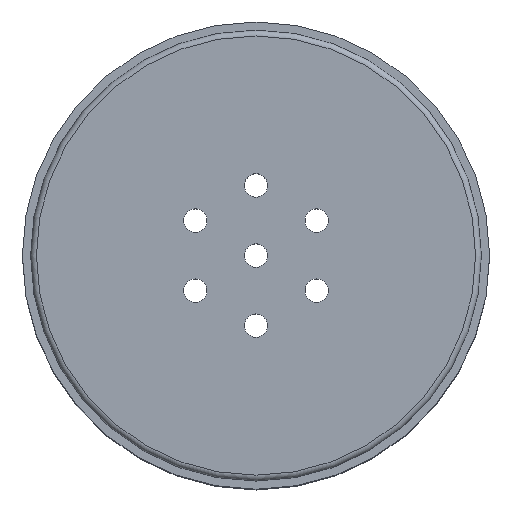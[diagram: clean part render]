
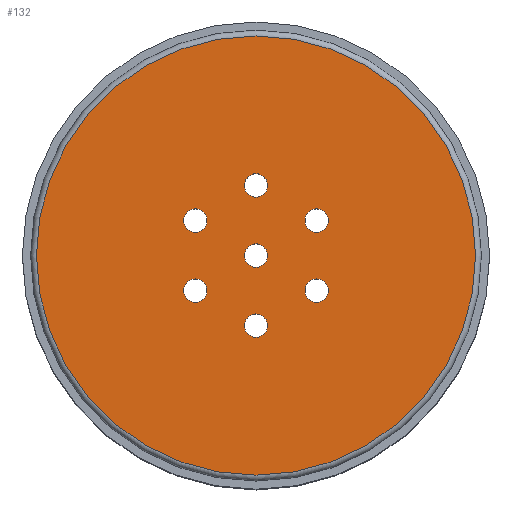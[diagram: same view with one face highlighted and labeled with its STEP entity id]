
A CAD part, top view. The second image highlights one B-rep face of the part: STEP entity #132.
In plain terms, the highlighted planar face has unit normal (0, 0, 1).
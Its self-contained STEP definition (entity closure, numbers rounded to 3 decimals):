
#132 = ADVANCED_FACE( '', ( #272, #273, #274, #275, #276, #277, #278, #279 ), #280, .T. );
#272 = FACE_BOUND( '', #426, .T. );
#273 = FACE_BOUND( '', #427, .T. );
#274 = FACE_BOUND( '', #428, .T. );
#275 = FACE_BOUND( '', #429, .T. );
#276 = FACE_BOUND( '', #430, .T. );
#277 = FACE_BOUND( '', #431, .T. );
#278 = FACE_BOUND( '', #432, .T. );
#279 = FACE_OUTER_BOUND( '', #433, .T. );
#280 = PLANE( '', #434 );
#426 = EDGE_LOOP( '', ( #602 ) );
#427 = EDGE_LOOP( '', ( #603 ) );
#428 = EDGE_LOOP( '', ( #604 ) );
#429 = EDGE_LOOP( '', ( #605 ) );
#430 = EDGE_LOOP( '', ( #606 ) );
#431 = EDGE_LOOP( '', ( #607 ) );
#432 = EDGE_LOOP( '', ( #608 ) );
#433 = EDGE_LOOP( '', ( #609 ) );
#434 = AXIS2_PLACEMENT_3D( '', #610, #611, #612 );
#602 = ORIENTED_EDGE( '', *, *, #718, .F. );
#603 = ORIENTED_EDGE( '', *, *, #736, .F. );
#604 = ORIENTED_EDGE( '', *, *, #744, .F. );
#605 = ORIENTED_EDGE( '', *, *, #746, .F. );
#606 = ORIENTED_EDGE( '', *, *, #720, .F. );
#607 = ORIENTED_EDGE( '', *, *, #747, .F. );
#608 = ORIENTED_EDGE( '', *, *, #748, .F. );
#609 = ORIENTED_EDGE( '', *, *, #749, .T. );
#610 = CARTESIAN_POINT( '', ( -19.298, 0., 18. ) );
#611 = DIRECTION( '', ( 0., 0., 1. ) );
#612 = DIRECTION( '', ( 1., 0., 0. ) );
#718 = EDGE_CURVE( '', #802, #802, #803, .T. );
#720 = EDGE_CURVE( '', #805, #805, #806, .T. );
#736 = EDGE_CURVE( '', #831, #831, #832, .T. );
#744 = EDGE_CURVE( '', #843, #843, #844, .T. );
#746 = EDGE_CURVE( '', #846, #846, #847, .T. );
#747 = EDGE_CURVE( '', #848, #848, #849, .T. );
#748 = EDGE_CURVE( '', #850, #850, #851, .T. );
#749 = EDGE_CURVE( '', #852, #852, #853, .T. );
#802 = VERTEX_POINT( '', #910 );
#803 = CIRCLE( '', #911, 1. );
#805 = VERTEX_POINT( '', #913 );
#806 = CIRCLE( '', #914, 1. );
#831 = VERTEX_POINT( '', #939 );
#832 = CIRCLE( '', #940, 1. );
#843 = VERTEX_POINT( '', #951 );
#844 = CIRCLE( '', #952, 1. );
#846 = VERTEX_POINT( '', #954 );
#847 = CIRCLE( '', #955, 1. );
#848 = VERTEX_POINT( '', #956 );
#849 = CIRCLE( '', #957, 1. );
#850 = VERTEX_POINT( '', #958 );
#851 = CIRCLE( '', #959, 1. );
#852 = VERTEX_POINT( '', #960 );
#853 = CIRCLE( '', #961, 18.798 );
#910 = CARTESIAN_POINT( '', ( 1., 0., 18. ) );
#911 = AXIS2_PLACEMENT_3D( '', #1026, #1027, #1028 );
#913 = CARTESIAN_POINT( '', ( 1., -6., 18. ) );
#914 = AXIS2_PLACEMENT_3D( '', #1029, #1030, #1031 );
#939 = CARTESIAN_POINT( '', ( 1., 6., 18. ) );
#940 = AXIS2_PLACEMENT_3D( '', #1059, #1060, #1061 );
#951 = CARTESIAN_POINT( '', ( -4.196, 3., 18. ) );
#952 = AXIS2_PLACEMENT_3D( '', #1071, #1072, #1073 );
#954 = CARTESIAN_POINT( '', ( -4.196, -3., 18. ) );
#955 = AXIS2_PLACEMENT_3D( '', #1074, #1075, #1076 );
#956 = CARTESIAN_POINT( '', ( 6.196, -3., 18. ) );
#957 = AXIS2_PLACEMENT_3D( '', #1077, #1078, #1079 );
#958 = CARTESIAN_POINT( '', ( 6.196, 3., 18. ) );
#959 = AXIS2_PLACEMENT_3D( '', #1080, #1081, #1082 );
#960 = CARTESIAN_POINT( '', ( 18.798, 0., 18. ) );
#961 = AXIS2_PLACEMENT_3D( '', #1083, #1084, #1085 );
#1026 = CARTESIAN_POINT( '', ( 0., 0., 18. ) );
#1027 = DIRECTION( '', ( 0., 0., 1. ) );
#1028 = DIRECTION( '', ( 1., 0., 0. ) );
#1029 = CARTESIAN_POINT( '', ( 0., -6., 18. ) );
#1030 = DIRECTION( '', ( 0., 0., 1. ) );
#1031 = DIRECTION( '', ( 1., 0., 0. ) );
#1059 = CARTESIAN_POINT( '', ( 0., 6., 18. ) );
#1060 = DIRECTION( '', ( 0., 0., 1. ) );
#1061 = DIRECTION( '', ( 1., 0., 0. ) );
#1071 = CARTESIAN_POINT( '', ( -5.196, 3., 18. ) );
#1072 = DIRECTION( '', ( 0., 0., 1. ) );
#1073 = DIRECTION( '', ( 1., 0., 0. ) );
#1074 = CARTESIAN_POINT( '', ( -5.196, -3., 18. ) );
#1075 = DIRECTION( '', ( 0., 0., 1. ) );
#1076 = DIRECTION( '', ( 1., 0., 0. ) );
#1077 = CARTESIAN_POINT( '', ( 5.196, -3., 18. ) );
#1078 = DIRECTION( '', ( 0., 0., 1. ) );
#1079 = DIRECTION( '', ( 1., 0., 0. ) );
#1080 = CARTESIAN_POINT( '', ( 5.196, 3., 18. ) );
#1081 = DIRECTION( '', ( 0., 0., 1. ) );
#1082 = DIRECTION( '', ( 1., 0., 0. ) );
#1083 = CARTESIAN_POINT( '', ( 0., 0., 18. ) );
#1084 = DIRECTION( '', ( 0., 0., 1. ) );
#1085 = DIRECTION( '', ( 1., 0., 0. ) );
